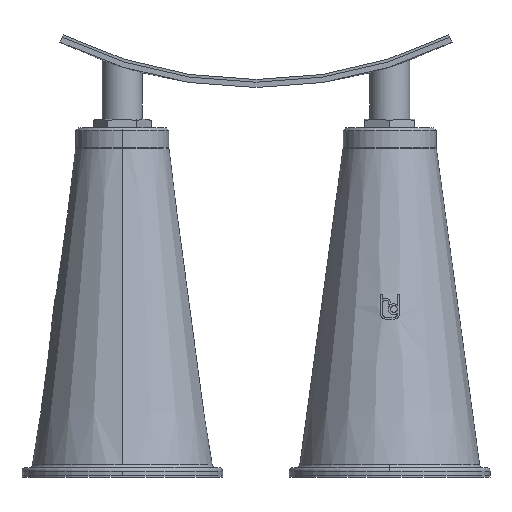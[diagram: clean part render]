
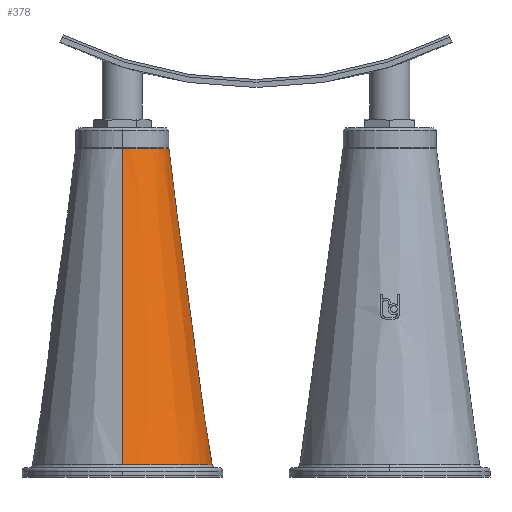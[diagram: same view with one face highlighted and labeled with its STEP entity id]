
A CAD part, front view. The second image highlights one B-rep face of the part: STEP entity #378.
In plain terms, the highlighted conical face has half-angle 7.768 degrees and reference radius 102.093 mm.
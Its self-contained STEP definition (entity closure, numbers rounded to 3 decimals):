
#378=ADVANCED_FACE('',(#873),#874,.T.);
#873=FACE_OUTER_BOUND('',#1556,.T.);
#874=CONICAL_SURFACE('',#1557,102.093,0.136);
#1556=EDGE_LOOP('',(#2404,#2405,#2406,#2407,#2408));
#1557=AXIS2_PLACEMENT_3D('',#2409,#2410,#2411);
#2404=ORIENTED_EDGE('',*,*,#3965,.T.);
#2405=ORIENTED_EDGE('',*,*,#4046,.F.);
#2406=ORIENTED_EDGE('',*,*,#3906,.F.);
#2407=ORIENTED_EDGE('',*,*,#3967,.T.);
#2408=ORIENTED_EDGE('',*,*,#4047,.T.);
#2409=CARTESIAN_POINT('',(8.211,528.029,-12.338));
#2410=DIRECTION('',(0.,0.,-1.0));
#2411=DIRECTION('',(0.,-1.0,0.));
#3906=EDGE_CURVE('',#4620,#4622,#4623,.T.);
#3965=EDGE_CURVE('',#4727,#4728,#4729,.T.);
#3967=EDGE_CURVE('',#4620,#4730,#4732,.T.);
#4046=EDGE_CURVE('',#4622,#4728,#4856,.T.);
#4047=EDGE_CURVE('',#4730,#4727,#4857,.T.);
#4620=VERTEX_POINT('',#5659);
#4622=VERTEX_POINT('',#5661);
#4623=CIRCLE('',#5662,134.41);
#4727=VERTEX_POINT('',#6120);
#4728=VERTEX_POINT('',#6121);
#4729=LINE('',#6122,#6123);
#4730=VERTEX_POINT('',#6124);
#4732=LINE('',#6126,#6127);
#4856=CIRCLE('',#6611,134.41);
#4857=CIRCLE('',#6612,69.775);
#5659=CARTESIAN_POINT('',(8.211,662.439,-249.231));
#5661=CARTESIAN_POINT('',(142.621,528.029,-249.231));
#5662=AXIS2_PLACEMENT_3D('',#8987,#8988,#8989);
#6120=CARTESIAN_POINT('',(8.211,458.254,224.555));
#6121=CARTESIAN_POINT('',(8.211,393.619,-249.231));
#6122=CARTESIAN_POINT('',(8.211,425.937,-12.338));
#6123=VECTOR('',#9059,1.0);
#6124=CARTESIAN_POINT('',(8.211,597.805,224.555));
#6126=CARTESIAN_POINT('',(8.211,630.122,-12.338));
#6127=VECTOR('',#9063,1.0);
#6611=AXIS2_PLACEMENT_3D('',#9144,#9145,#9146);
#6612=AXIS2_PLACEMENT_3D('',#9147,#9148,#9149);
#8987=CARTESIAN_POINT('',(8.211,528.029,-249.231));
#8988=DIRECTION('',(0.,0.,-1.0));
#8989=DIRECTION('',(0.,-1.0,0.));
#9059=DIRECTION('',(0.,-0.135,-0.991));
#9063=DIRECTION('',(0.,-0.135,0.991));
#9144=CARTESIAN_POINT('',(8.211,528.029,-249.231));
#9145=DIRECTION('',(0.,0.,-1.0));
#9146=DIRECTION('',(0.,-1.0,0.));
#9147=CARTESIAN_POINT('',(8.211,528.029,224.555));
#9148=DIRECTION('',(0.,0.,-1.0));
#9149=DIRECTION('',(0.,-1.0,0.));
